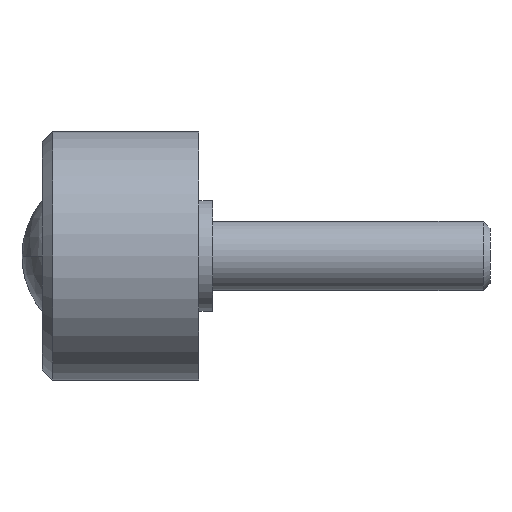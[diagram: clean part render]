
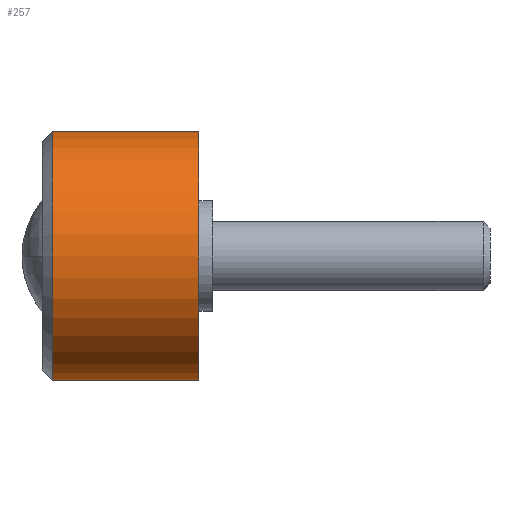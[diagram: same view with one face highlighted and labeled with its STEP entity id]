
A CAD part, left-side view. The second image highlights one B-rep face of the part: STEP entity #257.
In plain terms, the highlighted cylindrical face has radius 18 mm (diameter 36 mm), a partial arc.
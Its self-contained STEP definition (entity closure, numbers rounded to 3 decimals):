
#12 = AXIS2_PLACEMENT_3D ( 'NONE', #216, #573, #567 ) ;
#39 = ORIENTED_EDGE ( 'NONE', *, *, #251, .F. ) ;
#41 = VECTOR ( 'NONE', #583, 1000. ) ;
#63 = CARTESIAN_POINT ( 'NONE',  ( 0., 0., 18. ) ) ;
#105 = ORIENTED_EDGE ( 'NONE', *, *, #106, .T. ) ;
#106 = EDGE_CURVE ( 'NONE', #206, #629, #336, .T. ) ;
#112 = DIRECTION ( 'NONE',  ( 0., -1., 0. ) ) ;
#115 = VERTEX_POINT ( 'NONE', #618 ) ;
#134 = DIRECTION ( 'NONE',  ( 0., 0., -1. ) ) ;
#145 = VECTOR ( 'NONE', #716, 1000. ) ;
#158 = CARTESIAN_POINT ( 'NONE',  ( 0., 21.1, -18. ) ) ;
#184 = AXIS2_PLACEMENT_3D ( 'NONE', #658, #735, #134 ) ;
#206 = VERTEX_POINT ( 'NONE', #419 ) ;
#216 = CARTESIAN_POINT ( 'NONE',  ( 0., 21.1, 0. ) ) ;
#251 = EDGE_CURVE ( 'NONE', #206, #115, #637, .T. ) ;
#255 = CARTESIAN_POINT ( 'NONE',  ( 0., 0., -18. ) ) ;
#257 = ADVANCED_FACE ( 'NONE', ( #519 ), #357, .T. ) ;
#275 = ORIENTED_EDGE ( 'NONE', *, *, #420, .T. ) ;
#316 = CARTESIAN_POINT ( 'NONE',  ( 0., 0., 0. ) ) ;
#336 = CIRCLE ( 'NONE', #12, 18. ) ;
#357 = CYLINDRICAL_SURFACE ( 'NONE', #766, 18. ) ;
#369 = CARTESIAN_POINT ( 'NONE',  ( 0., 0., -18. ) ) ;
#370 = DIRECTION ( 'NONE',  ( 0., 0., -1. ) ) ;
#408 = EDGE_LOOP ( 'NONE', ( #39, #105, #275, #769 ) ) ;
#419 = CARTESIAN_POINT ( 'NONE',  ( 0., 21.1, 18. ) ) ;
#420 = EDGE_CURVE ( 'NONE', #629, #556, #559, .T. ) ;
#519 = FACE_OUTER_BOUND ( 'NONE', #408, .T. ) ;
#556 = VERTEX_POINT ( 'NONE', #369 ) ;
#559 = LINE ( 'NONE', #255, #145 ) ;
#567 = DIRECTION ( 'NONE',  ( 0., 0., 1. ) ) ;
#573 = DIRECTION ( 'NONE',  ( 0., -1., 0. ) ) ;
#583 = DIRECTION ( 'NONE',  ( 0., -1., 0. ) ) ;
#618 = CARTESIAN_POINT ( 'NONE',  ( 0., 0., 18. ) ) ;
#629 = VERTEX_POINT ( 'NONE', #158 ) ;
#637 = LINE ( 'NONE', #63, #41 ) ;
#658 = CARTESIAN_POINT ( 'NONE',  ( 0., 0., 0. ) ) ;
#695 = CIRCLE ( 'NONE', #184, 18. ) ;
#716 = DIRECTION ( 'NONE',  ( 0., -1., 0. ) ) ;
#735 = DIRECTION ( 'NONE',  ( 0., -1., 0. ) ) ;
#743 = EDGE_CURVE ( 'NONE', #115, #556, #695, .T. ) ;
#766 = AXIS2_PLACEMENT_3D ( 'NONE', #316, #112, #370 ) ;
#769 = ORIENTED_EDGE ( 'NONE', *, *, #743, .F. ) ;
